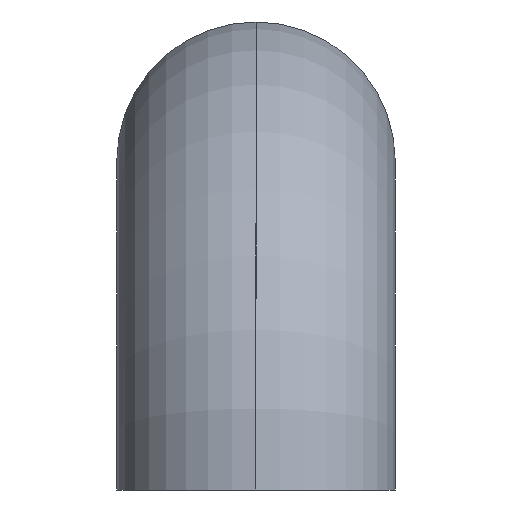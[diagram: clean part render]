
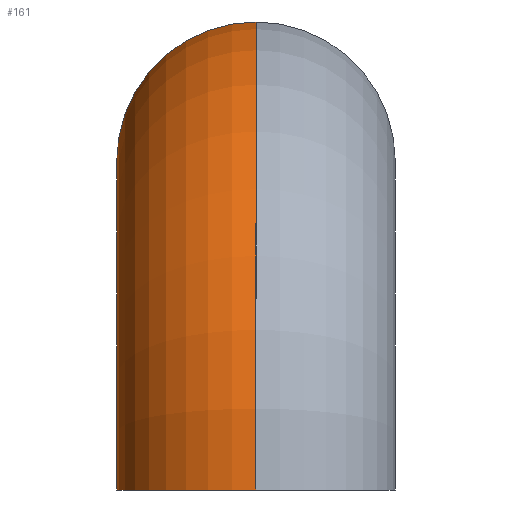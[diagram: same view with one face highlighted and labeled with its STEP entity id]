
A CAD part, left-side view. The second image highlights one B-rep face of the part: STEP entity #161.
In plain terms, the highlighted toroidal (fillet/blend) face has major radius 57 mm and minor radius 24.15 mm.
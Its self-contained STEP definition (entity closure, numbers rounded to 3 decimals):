
#3 = DIRECTION ( 'NONE',  ( 0., 0., 1. ) ) ;
#5 = EDGE_CURVE ( 'NONE', #164, #268, #179, .T. ) ;
#8 = CARTESIAN_POINT ( 'NONE',  ( 7016., 1810., 3438.85 ) ) ;
#10 = DIRECTION ( 'NONE',  ( 0., 0., -1. ) ) ;
#17 = EDGE_LOOP ( 'NONE', ( #291, #249, #188, #261 ) ) ;
#22 = EDGE_CURVE ( 'NONE', #144, #268, #168, .T. ) ;
#24 = CIRCLE ( 'NONE', #221, 81.15 ) ;
#28 = CARTESIAN_POINT ( 'NONE',  ( 7073., 1810., 3438.85 ) ) ;
#33 = CARTESIAN_POINT ( 'NONE',  ( 7073., 1810., 3438.85 ) ) ;
#44 = CIRCLE ( 'NONE', #230, 24.15 ) ;
#64 = AXIS2_PLACEMENT_3D ( 'NONE', #33, #236, #235 ) ;
#106 = DIRECTION ( 'NONE',  ( -1., 0., 0. ) ) ;
#107 = TOROIDAL_SURFACE ( 'NONE', #64, 57., 24.15 ) ;
#109 = CARTESIAN_POINT ( 'NONE',  ( 7073., 1810., 3495.85 ) ) ;
#114 = AXIS2_PLACEMENT_3D ( 'NONE', #135, #134, #176 ) ;
#118 = CARTESIAN_POINT ( 'NONE',  ( 7073., 1810., 3520. ) ) ;
#120 = CARTESIAN_POINT ( 'NONE',  ( 6991.85, 1810., 3438.85 ) ) ;
#122 = EDGE_CURVE ( 'NONE', #185, #144, #24, .T. ) ;
#134 = DIRECTION ( 'NONE',  ( 0., 1., 0. ) ) ;
#135 = CARTESIAN_POINT ( 'NONE',  ( 7073., 1810., 3438.85 ) ) ;
#136 = DIRECTION ( 'NONE',  ( 0., 1., 0. ) ) ;
#144 = VERTEX_POINT ( 'NONE', #118 ) ;
#161 = ADVANCED_FACE ( 'NONE', ( #181 ), #107, .T. ) ;
#164 = VERTEX_POINT ( 'NONE', #262 ) ;
#168 = CIRCLE ( 'NONE', #302, 24.15 ) ;
#176 = DIRECTION ( 'NONE',  ( -1., 0., 0. ) ) ;
#179 = CIRCLE ( 'NONE', #114, 32.85 ) ;
#180 = DIRECTION ( 'NONE',  ( -1., 0., 0. ) ) ;
#181 = FACE_OUTER_BOUND ( 'NONE', #17, .T. ) ;
#185 = VERTEX_POINT ( 'NONE', #120 ) ;
#188 = ORIENTED_EDGE ( 'NONE', *, *, #22, .T. ) ;
#198 = EDGE_CURVE ( 'NONE', #185, #164, #44, .T. ) ;
#209 = DIRECTION ( 'NONE',  ( -1., 0., 0. ) ) ;
#221 = AXIS2_PLACEMENT_3D ( 'NONE', #28, #136, #180 ) ;
#230 = AXIS2_PLACEMENT_3D ( 'NONE', #8, #10, #209 ) ;
#235 = DIRECTION ( 'NONE',  ( 0., 0., 1. ) ) ;
#236 = DIRECTION ( 'NONE',  ( 0., 1., 0. ) ) ;
#249 = ORIENTED_EDGE ( 'NONE', *, *, #122, .T. ) ;
#261 = ORIENTED_EDGE ( 'NONE', *, *, #5, .F. ) ;
#262 = CARTESIAN_POINT ( 'NONE',  ( 7040.15, 1810., 3438.85 ) ) ;
#268 = VERTEX_POINT ( 'NONE', #308 ) ;
#291 = ORIENTED_EDGE ( 'NONE', *, *, #198, .F. ) ;
#302 = AXIS2_PLACEMENT_3D ( 'NONE', #109, #106, #3 ) ;
#308 = CARTESIAN_POINT ( 'NONE',  ( 7073., 1810., 3471.7 ) ) ;
